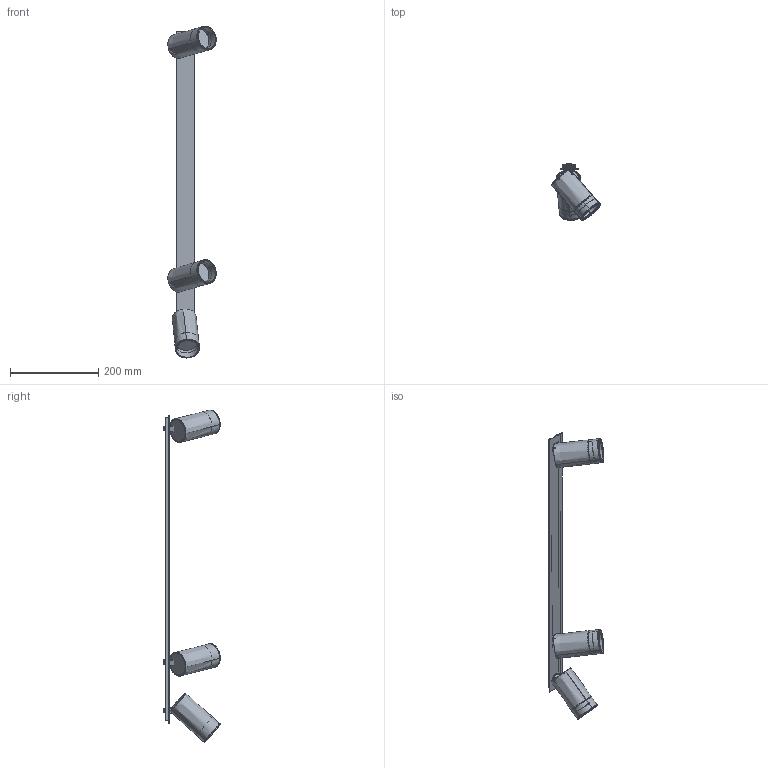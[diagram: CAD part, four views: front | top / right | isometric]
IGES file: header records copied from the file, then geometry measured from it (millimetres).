
Start section: SolidWorks IGES file using analytic representation for surfaces
Global section: file name: Z:\Modele 3D_WWW\_KOLEKCJE_WWW\MONO\MONO-SURFACE\MONO-SURFACE-III-GOLD-7685-7691\MONO-SURFACE-III-GOLD-7685-7691.IGS; native system: SolidWorks 2021; preprocessor: SolidWorks 2021; author: gabriela.tworek; date: 210818.072318; units: millimetre
Bounding box: 109.6 x 127.94 x 753.07 mm (x, y, z)
Surface area: 294493.4 mm2 (no closed solid volume)
Topology: 0 solids, 0 shells, 1042 faces, 14497 edges, 14497 vertices
Faces by surface type: bspline 553, revolution 489
